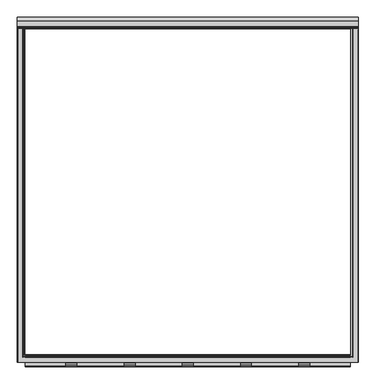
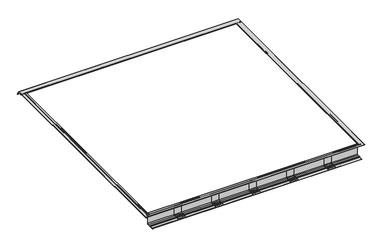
"""IFC4 building model written with IfcOpenShell, lengths in millimetres: fastener geometry."""

from ifc_helpers import new_model, si_unit, point, frame, frame_2d, origin, place, context, project, spatial, polyline, circle_curve, ellipse_curve, trimmed, segment, composite_curve, outline, extrude, source, transform, mapped, element, save
from ifc_brep_helpers import plane_surface, cylinder_surface, revolved_surface, advanced_brep


def fastener_52988820(model_context):
    return source(origin(), model_context, "Body", "SolidModel", [
        extrude(outline(composite_curve([segment(trimmed(circle_curve(frame_2d((-1145.5700599, -131.9625171)), 7.5509517), [point((-1138.0191082, -131.9625171))], [point((-1145.5700599, -139.5134688))], False, "CARTESIAN"), True, "CONTINUOUS"), segment(polyline([(-1145.5700599, -139.5134688), (-1177.5500422, -139.5134688)]), True, "CONTINUOUS"), segment(trimmed(circle_curve(frame_2d((-1177.2863618, -138.4574024)), 1.0884868), [point((-1177.5500422, -139.5134688))], [point((-1178.0560382, -137.6877259))], False, "CARTESIAN"), True, "CONTINUOUS"), segment(polyline([(-1178.0560382, -137.6877259), (-1176.7465916, -136.3782793)]), True, "CONTINUOUS"), segment(trimmed(circle_curve(frame_2d((-1177.516268, -135.6086029)), 1.0884868), [point((-1176.7465916, -136.3782793))], [point((-1176.911598, -134.7035184))], True, "CARTESIAN"), True, "CONTINUOUS"), segment(polyline([(-1176.911598, -134.7035184), (-1186.4250513, -134.7035184)]), True, "CONTINUOUS"), segment(trimmed(circle_curve(frame_2d((-1185.8203813, -135.6086029)), 1.0884868), [point((-1186.4250513, -134.7035184))], [point((-1186.5900578, -136.3782793))], True, "CARTESIAN"), True, "CONTINUOUS"), segment(polyline([(-1186.5900578, -136.3782793), (-1185.2806111, -137.6877259)]), True, "CONTINUOUS"), segment(trimmed(circle_curve(frame_2d((-1186.0502876, -138.4574024)), 1.0884868), [point((-1185.2806111, -137.6877259))], [point((-1185.7866071, -139.5134688))], False, "CARTESIAN"), True, "CONTINUOUS"), segment(polyline([(-1185.7866071, -139.5134688), (-1219.2, -139.5134688)]), True, "CONTINUOUS"), segment(trimmed(circle_curve(frame_2d((-1211.6858077, -138.781073)), 7.5498006), [point((-1219.2, -139.5134688))], [point((-1211.6858077, -131.2312724))], False, "CARTESIAN"), True, "CONTINUOUS"), segment(polyline([(-1211.6858077, -131.2312724), (-1195.9627839, -131.2312724)]), True, "CONTINUOUS"), segment(trimmed(circle_curve(frame_2d((-1195.8562589, -127.2549)), 3.977799), [point((-1195.9627839, -131.2312724))], [point((-1193.0435303, -130.0676287))], True, "CARTESIAN"), True, "CONTINUOUS"), segment(polyline([(-1193.0435303, -130.0676287), (-1190.9210407, -127.9451392)]), True, "CONTINUOUS"), segment(trimmed(circle_curve(frame_2d((-1188.1083121, -130.7578678)), 3.977799), [point((-1190.9210407, -127.9451392))], [point((-1188.0183247, -126.7810868))], False, "CARTESIAN"), True, "CONTINUOUS"), segment(polyline([(-1188.0183247, -126.7810868), (-1175.3183247, -126.7810868)]), True, "CONTINUOUS"), segment(trimmed(circle_curve(frame_2d((-1175.2283372, -130.7578678)), 3.977799), [point((-1175.3183247, -126.7810868))], [point((-1172.4156086, -127.9451392))], False, "CARTESIAN"), True, "CONTINUOUS"), segment(polyline([(-1172.4156086, -127.9451392), (-1170.2931191, -130.0676287)]), True, "CONTINUOUS"), segment(trimmed(circle_curve(frame_2d((-1167.4803904, -127.2549)), 3.977799), [point((-1170.2931191, -130.0676287))], [point((-1167.3738655, -131.2312724))], True, "CARTESIAN"), True, "CONTINUOUS"), segment(polyline([(-1167.3738655, -131.2312724), (-1150.9842926, -131.2312724)]), True, "CONTINUOUS"), segment(trimmed(circle_curve(frame_2d((-1150.2040874, -125.4486898)), 5.8349791), [point((-1150.9842926, -131.2312724))], [point((-1144.3691082, -125.4486898))], True, "CARTESIAN"), True, "CONTINUOUS"), segment(polyline([(-1144.3691082, -125.4486898), (-1144.3691082, -41.4750171), (-1138.0191082, -41.4750171), (-1138.0191082, -131.9625171)]), True, "CONTINUOUS")], self_intersect=False)), frame((774.7, 0.0, 0.0), z_axis=(1.0, 0.0, 0.0), x_axis=(0.0, 1.0, 0.0)), (0.0, 0.0, 1.0), 76.2),
        extrude(outline(composite_curve([segment(trimmed(circle_curve(frame_2d((-1145.5700599, -131.9625171)), 7.5509517), [point((-1138.0191082, -131.9625171))], [point((-1145.5700599, -139.5134688))], False, "CARTESIAN"), True, "CONTINUOUS"), segment(polyline([(-1145.5700599, -139.5134688), (-1177.5500422, -139.5134688)]), True, "CONTINUOUS"), segment(trimmed(circle_curve(frame_2d((-1177.2863618, -138.4574024)), 1.0884868), [point((-1177.5500422, -139.5134688))], [point((-1178.0560382, -137.6877259))], False, "CARTESIAN"), True, "CONTINUOUS"), segment(polyline([(-1178.0560382, -137.6877259), (-1176.7465916, -136.3782793)]), True, "CONTINUOUS"), segment(trimmed(circle_curve(frame_2d((-1177.516268, -135.6086029)), 1.0884868), [point((-1176.7465916, -136.3782793))], [point((-1176.911598, -134.7035184))], True, "CARTESIAN"), True, "CONTINUOUS"), segment(polyline([(-1176.911598, -134.7035184), (-1186.4250513, -134.7035184)]), True, "CONTINUOUS"), segment(trimmed(circle_curve(frame_2d((-1185.8203813, -135.6086029)), 1.0884868), [point((-1186.4250513, -134.7035184))], [point((-1186.5900578, -136.3782793))], True, "CARTESIAN"), True, "CONTINUOUS"), segment(polyline([(-1186.5900578, -136.3782793), (-1185.2806111, -137.6877259)]), True, "CONTINUOUS"), segment(trimmed(circle_curve(frame_2d((-1186.0502876, -138.4574024)), 1.0884868), [point((-1185.2806111, -137.6877259))], [point((-1185.7866071, -139.5134688))], False, "CARTESIAN"), True, "CONTINUOUS"), segment(polyline([(-1185.7866071, -139.5134688), (-1219.2, -139.5134688)]), True, "CONTINUOUS"), segment(trimmed(circle_curve(frame_2d((-1211.6858077, -138.781073)), 7.5498006), [point((-1219.2, -139.5134688))], [point((-1211.6858077, -131.2312724))], False, "CARTESIAN"), True, "CONTINUOUS"), segment(polyline([(-1211.6858077, -131.2312724), (-1195.9627839, -131.2312724)]), True, "CONTINUOUS"), segment(trimmed(circle_curve(frame_2d((-1195.8562589, -127.2549)), 3.977799), [point((-1195.9627839, -131.2312724))], [point((-1193.0435303, -130.0676287))], True, "CARTESIAN"), True, "CONTINUOUS"), segment(polyline([(-1193.0435303, -130.0676287), (-1190.9210407, -127.9451392)]), True, "CONTINUOUS"), segment(trimmed(circle_curve(frame_2d((-1188.1083121, -130.7578678)), 3.977799), [point((-1190.9210407, -127.9451392))], [point((-1188.0183247, -126.7810868))], False, "CARTESIAN"), True, "CONTINUOUS"), segment(polyline([(-1188.0183247, -126.7810868), (-1175.3183247, -126.7810868)]), True, "CONTINUOUS"), segment(trimmed(circle_curve(frame_2d((-1175.2283372, -130.7578678)), 3.977799), [point((-1175.3183247, -126.7810868))], [point((-1172.4156086, -127.9451392))], False, "CARTESIAN"), True, "CONTINUOUS"), segment(polyline([(-1172.4156086, -127.9451392), (-1170.2931191, -130.0676287)]), True, "CONTINUOUS"), segment(trimmed(circle_curve(frame_2d((-1167.4803904, -127.2549)), 3.977799), [point((-1170.2931191, -130.0676287))], [point((-1167.3738655, -131.2312724))], True, "CARTESIAN"), True, "CONTINUOUS"), segment(polyline([(-1167.3738655, -131.2312724), (-1150.9842926, -131.2312724)]), True, "CONTINUOUS"), segment(trimmed(circle_curve(frame_2d((-1150.2040874, -125.4486898)), 5.8349791), [point((-1150.9842926, -131.2312724))], [point((-1144.3691082, -125.4486898))], True, "CARTESIAN"), True, "CONTINUOUS"), segment(polyline([(-1144.3691082, -125.4486898), (-1144.3691082, -41.4750171), (-1138.0191082, -41.4750171), (-1138.0191082, -131.9625171)]), True, "CONTINUOUS")], self_intersect=False)), frame((-850.9, 0.0, 0.0), z_axis=(1.0, 0.0, 0.0), x_axis=(0.0, 1.0, 0.0)), (0.0, 0.0, 1.0), 76.2),
        extrude(outline(composite_curve([segment(trimmed(circle_curve(frame_2d((-1145.5700599, -131.9625171)), 7.5509517), [point((-1138.0191082, -131.9625171))], [point((-1145.5700599, -139.5134688))], False, "CARTESIAN"), True, "CONTINUOUS"), segment(polyline([(-1145.5700599, -139.5134688), (-1177.5500422, -139.5134688)]), True, "CONTINUOUS"), segment(trimmed(circle_curve(frame_2d((-1177.2863618, -138.4574024)), 1.0884868), [point((-1177.5500422, -139.5134688))], [point((-1178.0560382, -137.6877259))], False, "CARTESIAN"), True, "CONTINUOUS"), segment(polyline([(-1178.0560382, -137.6877259), (-1176.7465916, -136.3782793)]), True, "CONTINUOUS"), segment(trimmed(circle_curve(frame_2d((-1177.516268, -135.6086029)), 1.0884868), [point((-1176.7465916, -136.3782793))], [point((-1176.911598, -134.7035184))], True, "CARTESIAN"), True, "CONTINUOUS"), segment(polyline([(-1176.911598, -134.7035184), (-1186.4250513, -134.7035184)]), True, "CONTINUOUS"), segment(trimmed(circle_curve(frame_2d((-1185.8203813, -135.6086029)), 1.0884868), [point((-1186.4250513, -134.7035184))], [point((-1186.5900578, -136.3782793))], True, "CARTESIAN"), True, "CONTINUOUS"), segment(polyline([(-1186.5900578, -136.3782793), (-1185.2806111, -137.6877259)]), True, "CONTINUOUS"), segment(trimmed(circle_curve(frame_2d((-1186.0502876, -138.4574024)), 1.0884868), [point((-1185.2806111, -137.6877259))], [point((-1185.7866071, -139.5134688))], False, "CARTESIAN"), True, "CONTINUOUS"), segment(polyline([(-1185.7866071, -139.5134688), (-1219.2, -139.5134688)]), True, "CONTINUOUS"), segment(trimmed(circle_curve(frame_2d((-1211.6858077, -138.781073)), 7.5498006), [point((-1219.2, -139.5134688))], [point((-1211.6858077, -131.2312724))], False, "CARTESIAN"), True, "CONTINUOUS"), segment(polyline([(-1211.6858077, -131.2312724), (-1195.9627839, -131.2312724)]), True, "CONTINUOUS"), segment(trimmed(circle_curve(frame_2d((-1195.8562589, -127.2549)), 3.977799), [point((-1195.9627839, -131.2312724))], [point((-1193.0435303, -130.0676287))], True, "CARTESIAN"), True, "CONTINUOUS"), segment(polyline([(-1193.0435303, -130.0676287), (-1190.9210407, -127.9451392)]), True, "CONTINUOUS"), segment(trimmed(circle_curve(frame_2d((-1188.1083121, -130.7578678)), 3.977799), [point((-1190.9210407, -127.9451392))], [point((-1188.0183247, -126.7810868))], False, "CARTESIAN"), True, "CONTINUOUS"), segment(polyline([(-1188.0183247, -126.7810868), (-1175.3183247, -126.7810868)]), True, "CONTINUOUS"), segment(trimmed(circle_curve(frame_2d((-1175.2283372, -130.7578678)), 3.977799), [point((-1175.3183247, -126.7810868))], [point((-1172.4156086, -127.9451392))], False, "CARTESIAN"), True, "CONTINUOUS"), segment(polyline([(-1172.4156086, -127.9451392), (-1170.2931191, -130.0676287)]), True, "CONTINUOUS"), segment(trimmed(circle_curve(frame_2d((-1167.4803904, -127.2549)), 3.977799), [point((-1170.2931191, -130.0676287))], [point((-1167.3738655, -131.2312724))], True, "CARTESIAN"), True, "CONTINUOUS"), segment(polyline([(-1167.3738655, -131.2312724), (-1150.9842926, -131.2312724)]), True, "CONTINUOUS"), segment(trimmed(circle_curve(frame_2d((-1150.2040874, -125.4486898)), 5.8349791), [point((-1150.9842926, -131.2312724))], [point((-1144.3691082, -125.4486898))], True, "CARTESIAN"), True, "CONTINUOUS"), segment(polyline([(-1144.3691082, -125.4486898), (-1144.3691082, -41.4750171), (-1138.0191082, -41.4750171), (-1138.0191082, -131.9625171)]), True, "CONTINUOUS")], self_intersect=False)), frame((-444.5, 0.0, 0.0), z_axis=(1.0, 0.0, 0.0), x_axis=(0.0, 1.0, 0.0)), (0.0, 0.0, 1.0), 76.2),
        extrude(outline(composite_curve([segment(trimmed(circle_curve(frame_2d((-1145.5700599, -131.9625171)), 7.5509517), [point((-1138.0191082, -131.9625171))], [point((-1145.5700599, -139.5134688))], False, "CARTESIAN"), True, "CONTINUOUS"), segment(polyline([(-1145.5700599, -139.5134688), (-1177.5500422, -139.5134688)]), True, "CONTINUOUS"), segment(trimmed(circle_curve(frame_2d((-1177.2863618, -138.4574024)), 1.0884868), [point((-1177.5500422, -139.5134688))], [point((-1178.0560382, -137.6877259))], False, "CARTESIAN"), True, "CONTINUOUS"), segment(polyline([(-1178.0560382, -137.6877259), (-1176.7465916, -136.3782793)]), True, "CONTINUOUS"), segment(trimmed(circle_curve(frame_2d((-1177.516268, -135.6086029)), 1.0884868), [point((-1176.7465916, -136.3782793))], [point((-1176.911598, -134.7035184))], True, "CARTESIAN"), True, "CONTINUOUS"), segment(polyline([(-1176.911598, -134.7035184), (-1186.4250513, -134.7035184)]), True, "CONTINUOUS"), segment(trimmed(circle_curve(frame_2d((-1185.8203813, -135.6086029)), 1.0884868), [point((-1186.4250513, -134.7035184))], [point((-1186.5900578, -136.3782793))], True, "CARTESIAN"), True, "CONTINUOUS"), segment(polyline([(-1186.5900578, -136.3782793), (-1185.2806111, -137.6877259)]), True, "CONTINUOUS"), segment(trimmed(circle_curve(frame_2d((-1186.0502876, -138.4574024)), 1.0884868), [point((-1185.2806111, -137.6877259))], [point((-1185.7866071, -139.5134688))], False, "CARTESIAN"), True, "CONTINUOUS"), segment(polyline([(-1185.7866071, -139.5134688), (-1219.2, -139.5134688)]), True, "CONTINUOUS"), segment(trimmed(circle_curve(frame_2d((-1211.6858077, -138.781073)), 7.5498006), [point((-1219.2, -139.5134688))], [point((-1211.6858077, -131.2312724))], False, "CARTESIAN"), True, "CONTINUOUS"), segment(polyline([(-1211.6858077, -131.2312724), (-1195.9627839, -131.2312724)]), True, "CONTINUOUS"), segment(trimmed(circle_curve(frame_2d((-1195.8562589, -127.2549)), 3.977799), [point((-1195.9627839, -131.2312724))], [point((-1193.0435303, -130.0676287))], True, "CARTESIAN"), True, "CONTINUOUS"), segment(polyline([(-1193.0435303, -130.0676287), (-1190.9210407, -127.9451392)]), True, "CONTINUOUS"), segment(trimmed(circle_curve(frame_2d((-1188.1083121, -130.7578678)), 3.977799), [point((-1190.9210407, -127.9451392))], [point((-1188.0183247, -126.7810868))], False, "CARTESIAN"), True, "CONTINUOUS"), segment(polyline([(-1188.0183247, -126.7810868), (-1175.3183247, -126.7810868)]), True, "CONTINUOUS"), segment(trimmed(circle_curve(frame_2d((-1175.2283372, -130.7578678)), 3.977799), [point((-1175.3183247, -126.7810868))], [point((-1172.4156086, -127.9451392))], False, "CARTESIAN"), True, "CONTINUOUS"), segment(polyline([(-1172.4156086, -127.9451392), (-1170.2931191, -130.0676287)]), True, "CONTINUOUS"), segment(trimmed(circle_curve(frame_2d((-1167.4803904, -127.2549)), 3.977799), [point((-1170.2931191, -130.0676287))], [point((-1167.3738655, -131.2312724))], True, "CARTESIAN"), True, "CONTINUOUS"), segment(polyline([(-1167.3738655, -131.2312724), (-1150.9842926, -131.2312724)]), True, "CONTINUOUS"), segment(trimmed(circle_curve(frame_2d((-1150.2040874, -125.4486898)), 5.8349791), [point((-1150.9842926, -131.2312724))], [point((-1144.3691082, -125.4486898))], True, "CARTESIAN"), True, "CONTINUOUS"), segment(polyline([(-1144.3691082, -125.4486898), (-1144.3691082, -41.4750171), (-1138.0191082, -41.4750171), (-1138.0191082, -131.9625171)]), True, "CONTINUOUS")], self_intersect=False)), frame((368.3, 0.0, 0.0), z_axis=(1.0, 0.0, 0.0), x_axis=(0.0, 1.0, 0.0)), (0.0, 0.0, 1.0), 76.2),
        extrude(outline(composite_curve([segment(trimmed(circle_curve(frame_2d((-1145.5700599, -131.9625171)), 7.5509517), [point((-1138.0191082, -131.9625171))], [point((-1145.5700599, -139.5134688))], False, "CARTESIAN"), True, "CONTINUOUS"), segment(polyline([(-1145.5700599, -139.5134688), (-1177.5500422, -139.5134688)]), True, "CONTINUOUS"), segment(trimmed(circle_curve(frame_2d((-1177.2863618, -138.4574024)), 1.0884868), [point((-1177.5500422, -139.5134688))], [point((-1178.0560382, -137.6877259))], False, "CARTESIAN"), True, "CONTINUOUS"), segment(polyline([(-1178.0560382, -137.6877259), (-1176.7465916, -136.3782793)]), True, "CONTINUOUS"), segment(trimmed(circle_curve(frame_2d((-1177.516268, -135.6086029)), 1.0884868), [point((-1176.7465916, -136.3782793))], [point((-1176.911598, -134.7035184))], True, "CARTESIAN"), True, "CONTINUOUS"), segment(polyline([(-1176.911598, -134.7035184), (-1186.4250513, -134.7035184)]), True, "CONTINUOUS"), segment(trimmed(circle_curve(frame_2d((-1185.8203813, -135.6086029)), 1.0884868), [point((-1186.4250513, -134.7035184))], [point((-1186.5900578, -136.3782793))], True, "CARTESIAN"), True, "CONTINUOUS"), segment(polyline([(-1186.5900578, -136.3782793), (-1185.2806111, -137.6877259)]), True, "CONTINUOUS"), segment(trimmed(circle_curve(frame_2d((-1186.0502876, -138.4574024)), 1.0884868), [point((-1185.2806111, -137.6877259))], [point((-1185.7866071, -139.5134688))], False, "CARTESIAN"), True, "CONTINUOUS"), segment(polyline([(-1185.7866071, -139.5134688), (-1219.2, -139.5134688)]), True, "CONTINUOUS"), segment(trimmed(circle_curve(frame_2d((-1211.6858077, -138.781073)), 7.5498006), [point((-1219.2, -139.5134688))], [point((-1211.6858077, -131.2312724))], False, "CARTESIAN"), True, "CONTINUOUS"), segment(polyline([(-1211.6858077, -131.2312724), (-1195.9627839, -131.2312724)]), True, "CONTINUOUS"), segment(trimmed(circle_curve(frame_2d((-1195.8562589, -127.2549)), 3.977799), [point((-1195.9627839, -131.2312724))], [point((-1193.0435303, -130.0676287))], True, "CARTESIAN"), True, "CONTINUOUS"), segment(polyline([(-1193.0435303, -130.0676287), (-1190.9210407, -127.9451392)]), True, "CONTINUOUS"), segment(trimmed(circle_curve(frame_2d((-1188.1083121, -130.7578678)), 3.977799), [point((-1190.9210407, -127.9451392))], [point((-1188.0183247, -126.7810868))], False, "CARTESIAN"), True, "CONTINUOUS"), segment(polyline([(-1188.0183247, -126.7810868), (-1175.3183247, -126.7810868)]), True, "CONTINUOUS"), segment(trimmed(circle_curve(frame_2d((-1175.2283372, -130.7578678)), 3.977799), [point((-1175.3183247, -126.7810868))], [point((-1172.4156086, -127.9451392))], False, "CARTESIAN"), True, "CONTINUOUS"), segment(polyline([(-1172.4156086, -127.9451392), (-1170.2931191, -130.0676287)]), True, "CONTINUOUS"), segment(trimmed(circle_curve(frame_2d((-1167.4803904, -127.2549)), 3.977799), [point((-1170.2931191, -130.0676287))], [point((-1167.3738655, -131.2312724))], True, "CARTESIAN"), True, "CONTINUOUS"), segment(polyline([(-1167.3738655, -131.2312724), (-1150.9842926, -131.2312724)]), True, "CONTINUOUS"), segment(trimmed(circle_curve(frame_2d((-1150.2040874, -125.4486898)), 5.8349791), [point((-1150.9842926, -131.2312724))], [point((-1144.3691082, -125.4486898))], True, "CARTESIAN"), True, "CONTINUOUS"), segment(polyline([(-1144.3691082, -125.4486898), (-1144.3691082, -41.4750171), (-1138.0191082, -41.4750171), (-1138.0191082, -131.9625171)]), True, "CONTINUOUS")], self_intersect=False)), frame((-38.1, 0.0, 0.0), z_axis=(1.0, 0.0, 0.0), x_axis=(0.0, 1.0, 0.0)), (0.0, 0.0, 1.0), 76.2),
        extrude(outline(composite_curve([segment(polyline([(-1135.3165, -15.1804688), (-1135.3165, -142.1804688), (-1217.8665, -142.1804688)]), True, "CONTINUOUS"), segment(trimmed(circle_curve(frame_2d((-1217.8665, -140.8469688)), 1.3335), [point((-1217.8665, -142.1804688))], [point((-1217.8665, -139.5134688))], False, "CARTESIAN"), True, "CONTINUOUS"), segment(polyline([(-1217.8665, -139.5134688), (-1185.7509989, -139.5134688)]), True, "CONTINUOUS"), segment(trimmed(circle_curve(frame_2d((-1186.0146793, -138.4574024)), 1.0884868), [point((-1185.7509989, -139.5134688))], [point((-1185.2450029, -137.6877259))], True, "CARTESIAN"), True, "CONTINUOUS"), segment(polyline([(-1185.2450029, -137.6877259), (-1186.5544495, -136.3782793)]), True, "CONTINUOUS"), segment(trimmed(circle_curve(frame_2d((-1185.7847731, -135.6086029)), 1.0884868), [point((-1186.5544495, -136.3782793))], [point((-1186.389443, -134.7035184))], False, "CARTESIAN"), True, "CONTINUOUS"), segment(polyline([(-1186.389443, -134.7035184), (-1176.8759898, -134.7035184)]), True, "CONTINUOUS"), segment(trimmed(circle_curve(frame_2d((-1177.4806597, -135.6086029)), 1.0884868), [point((-1176.8759898, -134.7035184))], [point((-1176.7109833, -136.3782793))], False, "CARTESIAN"), True, "CONTINUOUS"), segment(polyline([(-1176.7109833, -136.3782793), (-1178.0204299, -137.6877259)]), True, "CONTINUOUS"), segment(trimmed(circle_curve(frame_2d((-1177.2507535, -138.4574024)), 1.0884868), [point((-1178.0204299, -137.6877259))], [point((-1177.5144339, -139.5134688))], True, "CARTESIAN"), True, "CONTINUOUS"), segment(polyline([(-1177.5144339, -139.5134688), (-1145.5344517, -139.5134688)]), True, "CONTINUOUS"), segment(trimmed(circle_curve(frame_2d((-1145.5344517, -131.9625171)), 7.5509517), [point((-1145.5344517, -139.5134688))], [point((-1137.9835, -131.9625171))], True, "CARTESIAN"), True, "CONTINUOUS"), segment(polyline([(-1137.9835, -131.9625171), (-1137.9835, -21.87801), (-1156.2117258, -21.87801), (-1156.2117258, -15.1804688), (-1152.1178999, -15.1804688)]), True, "CONTINUOUS"), segment(trimmed(circle_curve(frame_2d((-1152.8274757, -16.2725079)), 1.3023238), [point((-1152.1178999, -15.1804688))], [point((-1151.9131963, -17.1999455))], False, "CARTESIAN"), True, "CONTINUOUS"), segment(polyline([(-1151.9131963, -17.1999455), (-1152.9649499, -18.2679836)]), True, "CONTINUOUS"), segment(trimmed(circle_curve(frame_2d((-1152.5091166, -18.6293281)), 0.5816819), [point((-1152.9649499, -18.2679836))], [point((-1152.5091166, -19.21101))], True, "CARTESIAN"), True, "CONTINUOUS"), segment(polyline([(-1152.5091166, -19.21101), (-1140.8594568, -19.21101)]), True, "CONTINUOUS"), segment(trimmed(circle_curve(frame_2d((-1140.8594568, -18.6130003)), 0.5980097), [point((-1140.8594568, -19.21101))], [point((-1140.3710112, -18.2679836))], True, "CARTESIAN"), True, "CONTINUOUS"), segment(polyline([(-1140.3710112, -18.2679836), (-1141.460117, -17.1999455)]), True, "CONTINUOUS"), segment(trimmed(circle_curve(frame_2d((-1140.5022273, -16.284676)), 1.3248664), [point((-1141.460117, -17.1999455))], [point((-1141.2343456, -15.1804688))], False, "CARTESIAN"), True, "CONTINUOUS"), segment(polyline([(-1141.2343456, -15.1804688), (-1135.3165, -15.1804688)]), True, "CONTINUOUS")], self_intersect=False)), frame((-1135.3165, 0.0, 0.0), z_axis=(1.0, 0.0, 0.0), x_axis=(0.0, 1.0, 0.0)), (0.0, 0.0, 1.0), 2270.633),
        advanced_brep(
        [(-1189.1053092, 1141.2343456, -15.1685625), (-1189.1053092, 1135.3165, -15.1685625), (-1189.1053092, 1135.3165, -13.8350625), (-1189.1053092, 1135.3165, -12.5015625), (-1189.1053092, 1190.6451024, -12.5015625), (-1189.1053092, 1217.7515464, -59.4513008), (-1189.1053092, 1215.4418567, -60.7848008), (-1189.1053092, 1189.1053092, -15.1685625), (-1189.1053092, 1161.8308783, -15.1685625), (-1189.1053092, 1159.573508, -17.4259327), (-1189.1053092, 1159.573508, -26.7633474), (-1189.1053092, 1149.6719492, -26.7633474), (-1189.1053092, 1149.6719492, -24.7662067), (-1189.1053092, 1150.5032605, -24.7662067), (-1189.1053092, 1151.5117177, -23.7577495), (-1189.1053092, 1151.5117177, -21.8661038), (-1189.1053092, 1156.2117258, -21.8661038), (-1189.1053092, 1156.2117258, -15.1685625), (-1189.1053092, 1152.1178999, -15.1685625), (-1189.1053092, 1151.9131963, -17.2095918), (-1189.1053092, 1152.9812344, -18.2776299), (-1189.1053092, 1152.5091166, -19.1991038), (-1189.1053092, 1140.8431289, -19.1991038), (-1189.1053092, 1140.3710112, -18.2776299), (-1189.1053092, 1141.4390493, -17.2095918), (1189.1053092, 1141.2343456, -15.1685625), (1189.1053092, 1141.4390493, -17.2095918), (1189.1053092, 1140.3710112, -18.2776299), (1189.1053092, 1140.8431289, -19.1991038), (1189.1053092, 1152.5091166, -19.1991038), (1189.1053092, 1152.9812344, -18.2776299), (1189.1053092, 1151.9131963, -17.2095918), (1189.1053092, 1152.1178999, -15.1685625), (1189.1053092, 1156.2117258, -15.1685625), (1189.1053092, 1156.2117258, -21.8661038), (1189.1053092, 1151.5117177, -21.8661038), (1189.1053092, 1151.5117177, -23.7577495), (1189.1053092, 1150.5032605, -24.7662067), (1189.1053092, 1149.6719492, -24.7662067), (1189.1053092, 1149.6719492, -26.7633474), (1189.1053092, 1159.573508, -26.7633474), (1189.1053092, 1159.573508, -17.4259327), (1189.1053092, 1161.8308783, -15.1685625), (1189.1053092, 1189.1053092, -15.1685625), (1189.1053092, 1215.4418567, -60.7848008), (1189.1053092, 1217.7515464, -59.4513008), (1189.1053092, 1190.6451024, -12.5015625), (1189.1053092, 1135.3165, -12.5015625), (1189.1053092, 1135.3165, -13.8350625), (1189.1053092, 1135.3165, -15.1685625), (1187.7718092, 1135.3165, -15.1685625), (1187.7718092, -1187.7718092, -15.1685625), (-1187.7718092, -1187.7718092, -15.1685625), (-1187.7718092, 1135.3165, -15.1685625), (1135.3165, 1135.3165, -15.1685625), (-1135.3165, 1135.3165, -15.1685625), (-1135.3165, -1135.3165, -15.1685625), (1135.3165, -1135.3165, -15.1685625), (-1141.2160631, 1135.3165, -15.1685625), (-1152.1361825, 1135.3165, -15.1685625), (-1152.1361825, -1152.1361825, -15.1685625), (1152.1361825, -1152.1361825, -15.1685625), (1152.1361825, 1135.3165, -15.1685625), (1141.2160631, 1135.3165, -15.1685625), (1141.2160631, -1141.2160631, -15.1685625), (-1141.2160631, -1141.2160631, -15.1685625), (-1156.2117258, 1135.3165, -15.1685625), (-1161.8308783, 1135.3165, -15.1685625), (-1161.8308783, -1161.8308783, -15.1685625), (1161.8308783, -1161.8308783, -15.1685625), (1161.8308783, 1135.3165, -15.1685625), (1156.2117258, 1135.3165, -15.1685625), (1156.2117258, -1156.2117258, -15.1685625), (-1156.2117258, -1156.2117258, -15.1685625), (-1187.7718092, 1135.3165, -12.5015625), (1187.7718092, 1135.3165, -12.5015625), (1135.3165, 1135.3165, -12.5015625), (-1135.3165, 1135.3165, -12.5015625), (-1187.7718092, -1187.7718092, -12.5015625), (1187.7718092, -1187.7718092, -12.5015625), (1135.3165, -1135.3165, -12.5015625), (-1135.3165, -1135.3165, -12.5015625), (-1141.4390493, 1135.3165, -17.221498), (-1140.3710112, 1135.3165, -18.2895361), (-1140.8431289, 1135.3165, -19.21101), (-1152.5091166, 1135.3165, -19.21101), (-1152.9812344, 1135.3165, -18.2895361), (-1151.9131963, 1135.3165, -17.221498), (-1156.2117258, 1135.3165, -21.87801), (-1151.5117177, 1135.3165, -21.87801), (-1151.5117177, 1135.3165, -23.7696558), (-1150.5032605, 1135.3165, -24.7781129), (-1149.6719492, 1135.3165, -24.7781129), (-1149.6719492, 1135.3165, -26.7633474), (-1159.573508, 1135.3165, -26.7633474), (-1159.573508, 1135.3165, -17.4259327), (-1141.4390493, -1141.4390493, -17.221498), (-1140.3710112, -1140.3710112, -18.2895361), (-1140.8431289, -1140.8431289, -19.21101), (1140.8431289, -1140.8431289, -19.21101), (1140.8431289, 1135.3165, -19.21101), (1152.5091166, 1135.3165, -19.21101), (1152.5091166, -1152.5091166, -19.21101), (-1152.5091166, -1152.5091166, -19.21101), (-1152.9812344, -1152.9812344, -18.2895361), (-1151.9131963, -1151.9131963, -17.221498), (-1156.2117258, -1156.2117258, -21.87801), (1156.2117258, -1156.2117258, -21.87801), (1156.2117258, 1135.3165, -21.87801), (1151.5117177, 1135.3165, -21.87801), (1151.5117177, -1151.5117177, -21.87801), (-1151.5117177, -1151.5117177, -21.87801), (-1151.5117177, -1151.5117177, -23.7696558), (-1150.5032605, -1150.5032605, -24.7781129), (1150.5032605, -1150.5032605, -24.7781129), (1150.5032605, 1135.3165, -24.7781129), (1149.6719492, 1135.3165, -24.7781129), (1149.6719492, -1149.6719492, -24.7781129), (-1149.6719492, -1149.6719492, -24.7781129), (-1149.6719492, -1149.6719492, -26.7633474), (1149.6719492, -1149.6719492, -26.7633474), (1149.6719492, 1135.3165, -26.7633474), (1159.573508, 1135.3165, -26.7633474), (1159.573508, -1159.573508, -26.7633474), (-1159.573508, -1159.573508, -26.7633474), (-1159.573508, -1159.573508, -17.4259327), (1141.4390493, -1141.4390493, -17.221498), (1140.3710112, -1140.3710112, -18.2895361), (1152.9812344, -1152.9812344, -18.2895361), (1151.9131963, -1151.9131963, -17.221498), (1151.5117177, -1151.5117177, -23.7696558), (1159.573508, -1159.573508, -17.4259327), (1140.3710112, 1135.3165, -18.2895361), (1141.4390493, 1135.3165, -17.221498), (1151.9131963, 1135.3165, -17.221498), (1152.9812344, 1135.3165, -18.2895361), (1159.573508, 1135.3165, -17.4259327), (1151.5117177, 1135.3165, -23.7696558)],
        [
            (0, 1),
            (1, 2),
            (2, 3),
            (3, 4),
            (4, 5),
            (5, 6),
            (6, 7),
            (7, 8),
            (8, 9, circle_curve(frame((-1189.1053092, 1161.8308783, -17.4259327), z_axis=(1.0, 0.0, 0.0), x_axis=(0.0, 1.0, 0.0)), 2.2573702)),
            (9, 10),
            (10, 11),
            (11, 12, circle_curve(frame((-1189.1053092, 1149.6719492, -25.764777), z_axis=(-1.0, 0.0, 0.0), x_axis=(0.0, 1.0, 0.0)), 0.9985703)),
            (12, 13),
            (13, 14, circle_curve(frame((-1189.1053092, 1150.5032605, -23.7577495), z_axis=(1.0, 0.0, 0.0), x_axis=(0.0, 1.0, 0.0)), 1.0084572)),
            (14, 15),
            (15, 16),
            (16, 17),
            (17, 18),
            (18, 19, circle_curve(frame((-1189.1053092, 1152.8500183, -16.2727698), z_axis=(1.0, 0.0, 0.0), x_axis=(0.0, 1.0, 0.0)), 1.3248664)),
            (19, 20),
            (20, 21, circle_curve(frame((-1189.1053092, 1152.5091166, -18.6174219), z_axis=(-1.0, 0.0, 0.0), x_axis=(0.0, 1.0, 0.0)), 0.5816819)),
            (21, 22),
            (22, 23, circle_curve(frame((-1189.1053092, 1140.8431289, -18.6174219), z_axis=(-1.0, 0.0, 0.0), x_axis=(0.0, 1.0, 0.0)), 0.5816819)),
            (23, 24),
            (24, 0, circle_curve(frame((-1189.1053092, 1140.5022273, -16.2727698), z_axis=(1.0, 0.0, 0.0), x_axis=(0.0, 1.0, 0.0)), 1.3248664)),
            (25, 26, circle_curve(frame((1189.1053092, 1140.5022273, -16.2727698), z_axis=(-1.0, 0.0, 0.0), x_axis=(0.0, 1.0, 0.0)), 1.3248664)),
            (26, 27),
            (27, 28, circle_curve(frame((1189.1053092, 1140.8431289, -18.6174219), z_axis=(1.0, 0.0, 0.0), x_axis=(0.0, 1.0, 0.0)), 0.5816819)),
            (28, 29),
            (29, 30, circle_curve(frame((1189.1053092, 1152.5091166, -18.6174219), z_axis=(1.0, 0.0, 0.0), x_axis=(0.0, 1.0, 0.0)), 0.5816819)),
            (30, 31),
            (31, 32, circle_curve(frame((1189.1053092, 1152.8500183, -16.2727698), z_axis=(-1.0, 0.0, 0.0), x_axis=(0.0, 1.0, 0.0)), 1.3248664)),
            (32, 33),
            (33, 34),
            (34, 35),
            (35, 36),
            (36, 37, circle_curve(frame((1189.1053092, 1150.5032605, -23.7577495), z_axis=(-1.0, 0.0, 0.0), x_axis=(0.0, 1.0, 0.0)), 1.0084572)),
            (37, 38),
            (38, 39, circle_curve(frame((1189.1053092, 1149.6719492, -25.764777), z_axis=(1.0, 0.0, 0.0), x_axis=(0.0, 1.0, 0.0)), 0.9985703)),
            (39, 40),
            (40, 41),
            (41, 42, circle_curve(frame((1189.1053092, 1161.8308783, -17.4259327), z_axis=(-1.0, 0.0, 0.0), x_axis=(0.0, 1.0, 0.0)), 2.2573702)),
            (42, 43),
            (43, 44),
            (44, 45),
            (45, 46),
            (46, 47),
            (47, 48),
            (48, 49),
            (49, 25),
            (0, 25),
            (49, 50),
            (50, 51),
            (51, 52),
            (52, 53),
            (53, 1),
            (54, 55),
            (55, 56),
            (56, 57),
            (57, 54),
            (58, 59),
            (59, 60),
            (60, 61),
            (61, 62),
            (62, 63),
            (63, 64),
            (64, 65),
            (65, 58),
            (66, 67),
            (67, 68),
            (68, 69),
            (69, 70),
            (70, 71),
            (71, 72),
            (72, 73),
            (73, 66),
            (53, 2, circle_curve(frame((-1187.7718092, 1135.3165, -13.8350625), z_axis=(0.0, 1.0, 0.0), x_axis=(1.0, 0.0, 0.0)), 1.3335)),
            (2, 74, circle_curve(frame((-1187.7718092, 1135.3165, -13.8350625), z_axis=(0.0, 1.0, 0.0), x_axis=(1.0, 0.0, 0.0)), 1.3335)),
            (74, 3),
            (47, 75),
            (75, 48, circle_curve(frame((1187.7718092, 1135.3165, -13.8350625), z_axis=(0.0, 1.0, 0.0), x_axis=(-1.0, 0.0, 0.0)), 1.3335)),
            (48, 50, circle_curve(frame((1187.7718092, 1135.3165, -13.8350625), z_axis=(0.0, 1.0, 0.0), x_axis=(-1.0, 0.0, 0.0)), 1.3335)),
            (54, 76),
            (76, 77),
            (77, 55),
            (74, 78),
            (78, 79),
            (79, 75),
            (46, 4),
            (76, 80),
            (80, 81),
            (81, 77),
            (45, 5),
            (44, 6),
            (43, 7),
            (42, 8),
            (41, 9),
            (40, 10),
            (39, 11),
            (38, 12),
            (37, 13),
            (36, 14),
            (35, 15),
            (34, 16),
            (33, 17),
            (32, 18),
            (19, 31),
            (30, 20),
            (29, 21),
            (28, 22),
            (27, 23),
            (26, 24),
            (58, 82, circle_curve(frame((-1140.5022273, 1135.3165, -16.284676), z_axis=(0.0, -1.0, 0.0), x_axis=(1.0, 0.0, 0.0)), 1.3248664)),
            (82, 83),
            (83, 84, circle_curve(frame((-1140.8431289, 1135.3165, -18.6293281), z_axis=(0.0, 1.0, 0.0), x_axis=(1.0, 0.0, 0.0)), 0.5816819)),
            (84, 85),
            (85, 86, circle_curve(frame((-1152.5091166, 1135.3165, -18.6293281), z_axis=(0.0, 1.0, 0.0), x_axis=(1.0, 0.0, 0.0)), 0.5816819)),
            (86, 87),
            (87, 59, circle_curve(frame((-1152.8500183, 1135.3165, -16.284676), z_axis=(0.0, -1.0, 0.0), x_axis=(1.0, 0.0, 0.0)), 1.3248664)),
            (66, 88),
            (88, 89),
            (89, 90),
            (90, 91, circle_curve(frame((-1150.5032605, 1135.3165, -23.7696558), z_axis=(0.0, -1.0, 0.0), x_axis=(1.0, 0.0, 0.0)), 1.0084572)),
            (91, 92),
            (92, 93, circle_curve(frame((-1149.6719492, 1135.3165, -25.7707301), z_axis=(0.0, 1.0, 0.0), x_axis=(1.0, 0.0, 0.0)), 0.9926172)),
            (93, 94),
            (94, 95),
            (95, 67, circle_curve(frame((-1161.8308783, 1135.3165, -17.4259327), z_axis=(0.0, -1.0, 0.0), x_axis=(1.0, 0.0, 0.0)), 2.2573702)),
            (65, 96, ellipse_curve(frame((-1140.5022273, -1140.5022273, -16.284676), z_axis=(0.7071067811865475, -0.7071067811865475, 0.0), x_axis=(-0.7071067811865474, -0.7071067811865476, 0.0)), 1.873644, 1.3248664)),
            (96, 82),
            (96, 97),
            (97, 83),
            (97, 98, ellipse_curve(frame((-1140.8431289, -1140.8431289, -18.6293281), z_axis=(-0.7071067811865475, 0.7071067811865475, 0.0), x_axis=(0.7071067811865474, 0.7071067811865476, 0.0)), 0.8226224, 0.5816819)),
            (98, 84),
            (98, 99),
            (99, 100),
            (100, 101),
            (101, 102),
            (102, 103),
            (103, 85),
            (103, 104, ellipse_curve(frame((-1152.5091166, -1152.5091166, -18.6293281), z_axis=(-0.7071067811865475, 0.7071067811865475, 0.0), x_axis=(0.7071067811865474, 0.7071067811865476, 0.0)), 0.8226224, 0.5816819)),
            (104, 86),
            (104, 105),
            (105, 87),
            (105, 60, ellipse_curve(frame((-1152.8500183, -1152.8500183, -16.284676), z_axis=(0.7071067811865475, -0.7071067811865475, 0.0), x_axis=(-0.7071067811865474, -0.7071067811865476, 0.0)), 1.873644, 1.3248664)),
            (73, 106),
            (106, 88),
            (106, 107),
            (107, 108),
            (108, 109),
            (109, 110),
            (110, 111),
            (111, 89),
            (111, 112),
            (112, 90),
            (112, 113, ellipse_curve(frame((-1150.5032605, -1150.5032605, -23.7696558), z_axis=(0.7071067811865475, -0.7071067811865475, 0.0), x_axis=(-0.7071067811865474, -0.7071067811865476, 0.0)), 1.4261738, 1.0084572)),
            (113, 91),
            (113, 114),
            (114, 115),
            (115, 116),
            (116, 117),
            (117, 118),
            (118, 92),
            (118, 119, ellipse_curve(frame((-1149.6719492, -1149.6719492, -25.7707301), z_axis=(-0.7071067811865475, 0.7071067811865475, 0.0), x_axis=(0.7071067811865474, 0.7071067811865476, 0.0)), 1.4037727, 0.9926172)),
            (119, 93),
            (119, 120),
            (120, 121),
            (121, 122),
            (122, 123),
            (123, 124),
            (124, 94),
            (124, 125),
            (125, 95),
            (125, 68, ellipse_curve(frame((-1161.8308783, -1161.8308783, -17.4259327), z_axis=(0.7071067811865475, -0.7071067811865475, 0.0), x_axis=(-0.7071067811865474, -0.7071067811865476, 0.0)), 3.1924036, 2.2573702)),
            (52, 78, ellipse_curve(frame((-1187.7718092, -1187.7718092, -13.8350625), z_axis=(-0.7071067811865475, 0.7071067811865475, 0.0), x_axis=(0.7071067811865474, 0.7071067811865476, 0.0)), 1.8858538, 1.3335)),
            (81, 56),
            (64, 126, ellipse_curve(frame((1140.5022273, -1140.5022273, -16.284676), z_axis=(0.7071067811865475, 0.7071067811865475, 0.0), x_axis=(0.7071067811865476, -0.7071067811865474, 0.0)), 1.873644, 1.3248664)),
            (126, 96),
            (126, 127),
            (127, 97),
            (127, 99, ellipse_curve(frame((1140.8431289, -1140.8431289, -18.6293281), z_axis=(-0.7071067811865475, -0.7071067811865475, 0.0), x_axis=(-0.7071067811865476, 0.7071067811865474, 0.0)), 0.8226224, 0.5816819)),
            (102, 128, ellipse_curve(frame((1152.5091166, -1152.5091166, -18.6293281), z_axis=(-0.7071067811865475, -0.7071067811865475, 0.0), x_axis=(-0.7071067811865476, 0.7071067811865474, 0.0)), 0.8226224, 0.5816819)),
            (128, 104),
            (128, 129),
            (129, 105),
            (129, 61, ellipse_curve(frame((1152.8500183, -1152.8500183, -16.284676), z_axis=(0.7071067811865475, 0.7071067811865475, 0.0), x_axis=(0.7071067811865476, -0.7071067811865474, 0.0)), 1.873644, 1.3248664)),
            (72, 107),
            (110, 130),
            (130, 112),
            (130, 114, ellipse_curve(frame((1150.5032605, -1150.5032605, -23.7696558), z_axis=(0.7071067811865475, 0.7071067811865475, 0.0), x_axis=(0.7071067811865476, -0.7071067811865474, 0.0)), 1.4261738, 1.0084572)),
            (117, 120, ellipse_curve(frame((1149.6719492, -1149.6719492, -25.7707301), z_axis=(-0.7071067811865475, -0.7071067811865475, 0.0), x_axis=(-0.7071067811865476, 0.7071067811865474, 0.0)), 1.4037727, 0.9926172)),
            (123, 131),
            (131, 125),
            (131, 69, ellipse_curve(frame((1161.8308783, -1161.8308783, -17.4259327), z_axis=(0.7071067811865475, 0.7071067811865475, 0.0), x_axis=(0.7071067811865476, -0.7071067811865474, 0.0)), 3.1924036, 2.2573702)),
            (51, 79, ellipse_curve(frame((1187.7718092, -1187.7718092, -13.8350625), z_axis=(-0.7071067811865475, -0.7071067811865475, 0.0), x_axis=(-0.7071067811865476, 0.7071067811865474, 0.0)), 1.8858538, 1.3335)),
            (80, 57),
            (100, 132, circle_curve(frame((1140.8431289, 1135.3165, -18.6293281), z_axis=(0.0, 1.0, 0.0), x_axis=(-1.0, 0.0, 0.0)), 0.5816819)),
            (132, 133),
            (133, 63, circle_curve(frame((1140.5022273, 1135.3165, -16.284676), z_axis=(0.0, -1.0, 0.0), x_axis=(-1.0, 0.0, 0.0)), 1.3248664)),
            (62, 134, circle_curve(frame((1152.8500183, 1135.3165, -16.284676), z_axis=(0.0, -1.0, 0.0), x_axis=(-1.0, 0.0, 0.0)), 1.3248664)),
            (134, 135),
            (135, 101, circle_curve(frame((1152.5091166, 1135.3165, -18.6293281), z_axis=(0.0, 1.0, 0.0), x_axis=(-1.0, 0.0, 0.0)), 0.5816819)),
            (108, 71),
            (70, 136, circle_curve(frame((1161.8308783, 1135.3165, -17.4259327), z_axis=(0.0, -1.0, 0.0), x_axis=(-1.0, 0.0, 0.0)), 2.2573702)),
            (136, 122),
            (121, 116, circle_curve(frame((1149.6719492, 1135.3165, -25.7707301), z_axis=(0.0, 1.0, 0.0), x_axis=(-1.0, 0.0, 0.0)), 0.9926172)),
            (115, 137, circle_curve(frame((1150.5032605, 1135.3165, -23.7696558), z_axis=(0.0, -1.0, 0.0), x_axis=(-1.0, 0.0, 0.0)), 1.0084572)),
            (137, 109),
            (133, 126),
            (132, 127),
            (135, 128),
            (134, 129),
            (137, 130),
            (136, 131),
        ],
        [
            plane_surface(frame((-1189.1053092, 1219.2, 0.0), z_axis=(-1.0, 0.0, 0.0), x_axis=(0.0, 0.0, 1.0))),
            plane_surface(frame((1189.1053092, 1219.2, 0.0), z_axis=(1.0, 0.0, 0.0), x_axis=(0.0, 0.0, 1.0))),
            plane_surface(frame((-1189.1053092, 1141.2343456, -15.1685625), z_axis=(0.0, 0.0, -1.0), x_axis=(1.0, 0.0, 0.0))),
            plane_surface(frame((-1189.1053092, 1135.3165, -15.1685625), z_axis=(0.0, -1.0, 0.0), x_axis=(1.0, 0.0, 0.0))),
            plane_surface(frame((-1189.1053092, 1135.3165, -12.5015625), z_axis=(0.0, 0.0, 1.0), x_axis=(1.0, 0.0, 0.0))),
            plane_surface(frame((-1189.1053092, 1190.6451024, -12.5015625), z_axis=(0.0, 0.8660254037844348, 0.5000000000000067), x_axis=(1.0, 0.0, 0.0))),
            plane_surface(frame((-1189.1053092, 1217.7515464, -59.4513008), z_axis=(0.0, 0.4999999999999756, -0.8660254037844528), x_axis=(1.0, 0.0, 0.0))),
            plane_surface(frame((-1189.1053092, 1215.4418567, -60.7848008), z_axis=(0.0, -0.8660254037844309, -0.5000000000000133), x_axis=(1.0, 0.0, 0.0))),
            plane_surface(frame((-1189.1053092, 1189.1053092, -15.1685625), z_axis=(0.0, 0.0, -1.0), x_axis=(1.0, 0.0, 0.0))),
            revolved_surface(polyline([(1189.1053092, 1164.0882485, -17.4259327), (-1189.1053092, 1164.0882485, -17.4259327)]), (-1189.1053092, 1161.8308783, -17.4259327), (1.0, 0.0, 0.0)),
            plane_surface(frame((-1189.1053092, 1159.573508, -17.4259327), z_axis=(0.0, 1.0, 0.0), x_axis=(1.0, 0.0, 0.0))),
            plane_surface(frame((-1189.1053092, 1159.573508, -26.7633474), z_axis=(0.0, 0.0, -1.0), x_axis=(1.0, 0.0, 0.0))),
            cylinder_surface(frame((-1189.1053092, 1149.6719492, -25.764777), z_axis=(-1.0, 0.0, 0.0), x_axis=(0.0, 1.0, 0.0)), 0.9985703),
            plane_surface(frame((-1189.1053092, 1149.6719492, -24.7662067), z_axis=(0.0, 0.0, 1.0), x_axis=(1.0, 0.0, 0.0))),
            revolved_surface(polyline([(1189.1053092, 1151.5117177, -23.7577495), (-1189.1053092, 1151.5117177, -23.7577495)]), (-1189.1053092, 1150.5032605, -23.7577495), (1.0, 0.0, 0.0)),
            plane_surface(frame((-1189.1053092, 1151.5117177, -23.7577495), z_axis=(0.0, -1.0, 0.0), x_axis=(1.0, 0.0, 0.0))),
            plane_surface(frame((-1189.1053092, 1151.5117177, -21.8661038), z_axis=(0.0, 0.0, 1.0), x_axis=(1.0, 0.0, 0.0))),
            plane_surface(frame((-1189.1053092, 1156.2117258, -21.8661038), z_axis=(0.0, -1.0, 0.0), x_axis=(1.0, 0.0, 0.0))),
            plane_surface(frame((-1189.1053092, 1156.2117258, -15.1685625), z_axis=(0.0, 0.0, -1.0), x_axis=(1.0, 0.0, 0.0))),
            plane_surface(frame((-1189.1053092, 1151.9131963, -17.2095918), z_axis=(0.0, 0.7071067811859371, 0.7071067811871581), x_axis=(1.0, 0.0, 0.0))),
            cylinder_surface(frame((-1189.1053092, 1152.5091166, -18.6174219), z_axis=(-1.0, 0.0, 0.0), x_axis=(0.0, 1.0, 0.0)), 0.5816819),
            plane_surface(frame((-1189.1053092, 1152.5091166, -19.1991038), z_axis=(0.0, 0.0, -1.0), x_axis=(1.0, 0.0, 0.0))),
            cylinder_surface(frame((-1189.1053092, 1140.8431289, -18.6174219), z_axis=(-1.0, 0.0, 0.0), x_axis=(0.0, 1.0, 0.0)), 0.5816819),
            plane_surface(frame((-1189.1053092, 1140.3710112, -18.2776299), z_axis=(0.0, -0.7071067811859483, 0.7071067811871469), x_axis=(1.0, 0.0, 0.0))),
            revolved_surface(polyline([(1189.1053092, 1154.1748847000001, -16.2727698), (-1189.1053092, 1154.1748847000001, -16.2727698)]), (-1189.1053092, 1152.8500183, -16.2727698), (1.0, 0.0, 0.0)),
            revolved_surface(polyline([(1189.1053092, 1141.8270937, -16.2727698), (-1189.1053092, 1141.8270937, -16.2727698)]), (-1189.1053092, 1140.5022273, -16.2727698), (1.0, 0.0, 0.0)),
            plane_surface(frame((-1219.2, 1135.3165, 0.0), z_axis=(0.0, 1.0, 0.0), x_axis=(0.0, 0.0, 1.0))),
            revolved_surface(polyline([(-1139.1773609, -1141.8270936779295, -16.284676), (-1139.1773609, 1135.3165, -16.284676)]), (-1140.5022273, 1135.3165, -16.284676), (0.0, -1.0, 0.0)),
            plane_surface(frame((-1141.4390493, 1135.3165, -17.221498), z_axis=(0.7071067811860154, 0.0, 0.7071067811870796), x_axis=(0.0, -1.0, 0.0))),
            cylinder_surface(frame((-1140.8431289, 1135.3165, -18.6293281), z_axis=(0.0, 1.0, 0.0), x_axis=(1.0, 0.0, 0.0)), 0.5816819),
            plane_surface(frame((-1140.8431289, 1135.3165, -19.21101), z_axis=(0.0, 0.0, -1.0), x_axis=(0.0, -1.0, 0.0))),
            cylinder_surface(frame((-1152.5091166, 1135.3165, -18.6293281), z_axis=(0.0, 1.0, 0.0), x_axis=(1.0, 0.0, 0.0)), 0.5816819),
            plane_surface(frame((-1152.9812344, 1135.3165, -18.2895361), z_axis=(-0.7071067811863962, 0.0, 0.7071067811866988), x_axis=(0.0, -1.0, 0.0))),
            revolved_surface(polyline([(-1151.5251519, -1154.1748846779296, -16.284676), (-1151.5251519, 1135.3165, -16.284676)]), (-1152.8500183, 1135.3165, -16.284676), (0.0, -1.0, 0.0)),
            plane_surface(frame((-1156.2117258, 1135.3165, -15.1685625), z_axis=(1.0, 0.0, 0.0), x_axis=(0.0, -1.0, 0.0))),
            plane_surface(frame((-1156.2117258, 1135.3165, -21.87801), z_axis=(0.0, 0.0, 1.0), x_axis=(0.0, -1.0, 0.0))),
            plane_surface(frame((-1151.5117177, 1135.3165, -21.87801), z_axis=(1.0, 0.0, 0.0), x_axis=(0.0, -1.0, 0.0))),
            revolved_surface(polyline([(-1149.4948032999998, -1151.5117177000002, -23.7696558), (-1149.4948032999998, 1135.3165, -23.7696558)]), (-1150.5032605, 1135.3165, -23.7696558), (0.0, -1.0, 0.0)),
            plane_surface(frame((-1150.5032605, 1135.3165, -24.7781129), z_axis=(0.0, 0.0, 1.0), x_axis=(0.0, -1.0, 0.0))),
            cylinder_surface(frame((-1149.6719492, 1135.3165, -25.7707301), z_axis=(0.0, 1.0, 0.0), x_axis=(1.0, 0.0, 0.0)), 0.9926172),
            plane_surface(frame((-1149.6719492, 1135.3165, -26.7633474), z_axis=(0.0, 0.0, -1.0), x_axis=(0.0, -1.0, 0.0))),
            plane_surface(frame((-1159.573508, 1135.3165, -26.7633474), z_axis=(-1.0, 0.0, 0.0), x_axis=(0.0, -1.0, 0.0))),
            revolved_surface(polyline([(-1159.5735081, -1164.0882485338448, -17.4259327), (-1159.5735081, 1135.3165, -17.4259327)]), (-1161.8308783, 1135.3165, -17.4259327), (0.0, -1.0, 0.0)),
            cylinder_surface(frame((-1187.7718092, 1135.3165, -13.8350625), z_axis=(0.0, 1.0, 0.0), x_axis=(1.0, 0.0, 0.0)), 1.3335),
            plane_surface(frame((-1135.3165, 1135.3165, -12.5015625), z_axis=(1.0, 0.0, 0.0), x_axis=(0.0, -1.0, 0.0))),
            revolved_surface(polyline([(1141.8270936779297, -1139.1773609, -16.284676), (-1141.8270936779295, -1139.1773609, -16.284676)]), (-1219.2, -1140.5022273, -16.284676), (1.0, 0.0, 0.0)),
            plane_surface(frame((-1141.4390493, -1141.4390493, -17.221498), z_axis=(0.0, 0.7071067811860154, 0.7071067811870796), x_axis=(1.0, 0.0, 0.0))),
            cylinder_surface(frame((-1219.2, -1140.8431289, -18.6293281), z_axis=(-1.0, 0.0, 0.0), x_axis=(0.0, 1.0, 0.0)), 0.5816819),
            cylinder_surface(frame((-1219.2, -1152.5091166, -18.6293281), z_axis=(-1.0, 0.0, 0.0), x_axis=(0.0, 1.0, 0.0)), 0.5816819),
            plane_surface(frame((-1152.9812344, -1152.9812344, -18.2895361), z_axis=(0.0, -0.7071067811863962, 0.7071067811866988), x_axis=(1.0, 0.0, 0.0))),
            revolved_surface(polyline([(1154.1748846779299, -1151.5251519, -16.284676), (-1154.1748846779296, -1151.5251519, -16.284676)]), (-1219.2, -1152.8500183, -16.284676), (1.0, 0.0, 0.0)),
            plane_surface(frame((-1156.2117258, -1156.2117258, -15.1685625), z_axis=(0.0, 1.0, 0.0), x_axis=(1.0, 0.0, 0.0))),
            plane_surface(frame((-1151.5117177, -1151.5117177, -21.87801), z_axis=(0.0, 1.0, 0.0), x_axis=(1.0, 0.0, 0.0))),
            revolved_surface(polyline([(1151.5117177, -1149.4948032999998, -23.7696558), (-1151.5117177, -1149.4948032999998, -23.7696558)]), (-1219.2, -1150.5032605, -23.7696558), (1.0, 0.0, 0.0)),
            cylinder_surface(frame((-1219.2, -1149.6719492, -25.7707301), z_axis=(-1.0, 0.0, 0.0), x_axis=(0.0, 1.0, 0.0)), 0.9926172),
            plane_surface(frame((-1159.573508, -1159.573508, -26.7633474), z_axis=(0.0, -1.0, 0.0), x_axis=(1.0, 0.0, 0.0))),
            revolved_surface(polyline([(1164.0882485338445, -1159.5735081, -17.4259327), (-1164.0882485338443, -1159.5735081, -17.4259327)]), (-1219.2, -1161.8308783, -17.4259327), (1.0, 0.0, 0.0)),
            cylinder_surface(frame((-1219.2, -1187.7718092, -13.8350625), z_axis=(-1.0, 0.0, 0.0), x_axis=(0.0, 1.0, 0.0)), 1.3335),
            plane_surface(frame((-1135.3165, -1135.3165, -12.5015625), z_axis=(0.0, 1.0, 0.0), x_axis=(1.0, 0.0, 0.0))),
            plane_surface(frame((1219.2, 1135.3165, 0.0), z_axis=(0.0, 1.0, 0.0), x_axis=(0.0, 0.0, 1.0))),
            revolved_surface(polyline([(1139.1773609, 1135.3164999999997, -16.284676), (1139.1773609, -1141.8270936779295, -16.284676)]), (1140.5022273, -1219.2, -16.284676), (0.0, 1.0, 0.0)),
            plane_surface(frame((1141.4390493, -1141.4390493, -17.221498), z_axis=(-0.7071067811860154, 0.0, 0.7071067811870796), x_axis=(0.0, 1.0, 0.0))),
            cylinder_surface(frame((1140.8431289, -1219.2, -18.6293281), z_axis=(0.0, -1.0, 0.0), x_axis=(-1.0, 0.0, 0.0)), 0.5816819),
            cylinder_surface(frame((1152.5091166, -1219.2, -18.6293281), z_axis=(0.0, -1.0, 0.0), x_axis=(-1.0, 0.0, 0.0)), 0.5816819),
            plane_surface(frame((1152.9812344, -1152.9812344, -18.2895361), z_axis=(0.7071067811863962, 0.0, 0.7071067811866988), x_axis=(0.0, 1.0, 0.0))),
            revolved_surface(polyline([(1151.5251519, 1135.3164999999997, -16.284676), (1151.5251519, -1154.1748846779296, -16.284676)]), (1152.8500183, -1219.2, -16.284676), (0.0, 1.0, 0.0)),
            plane_surface(frame((1156.2117258, -1156.2117258, -15.1685625), z_axis=(-1.0, 0.0, 0.0), x_axis=(0.0, 1.0, 0.0))),
            plane_surface(frame((1151.5117177, -1151.5117177, -21.87801), z_axis=(-1.0, 0.0, 0.0), x_axis=(0.0, 1.0, 0.0))),
            revolved_surface(polyline([(1149.4948032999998, 1135.3164999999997, -23.7696558), (1149.4948032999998, -1151.5117177, -23.7696558)]), (1150.5032605, -1219.2, -23.7696558), (0.0, 1.0, 0.0)),
            cylinder_surface(frame((1149.6719492, -1219.2, -25.7707301), z_axis=(0.0, -1.0, 0.0), x_axis=(-1.0, 0.0, 0.0)), 0.9926172),
            plane_surface(frame((1159.573508, -1159.573508, -26.7633474), z_axis=(1.0, 0.0, 0.0), x_axis=(0.0, 1.0, 0.0))),
            revolved_surface(polyline([(1159.5735081, 1135.3164999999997, -17.4259327), (1159.5735081, -1164.0882485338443, -17.4259327)]), (1161.8308783, -1219.2, -17.4259327), (0.0, 1.0, 0.0)),
            cylinder_surface(frame((1187.7718092, -1219.2, -13.8350625), z_axis=(0.0, -1.0, 0.0), x_axis=(-1.0, 0.0, 0.0)), 1.3335),
            plane_surface(frame((1135.3165, -1135.3165, -12.5015625), z_axis=(-1.0, 0.0, 0.0), x_axis=(0.0, 1.0, 0.0))),
        ],
        [
            (0, [[1, 2, 3, 4, 5, 6, 7, 8, 9, 10, 11, 12, 13, 14, 15, 16, 17, 18, 19, 20, 21, 22, 23, 24, 25]]),
            (1, [[26, 27, 28, 29, 30, 31, 32, 33, 34, 35, 36, 37, 38, 39, 40, 41, 42, 43, 44, 45, 46, 47, 48, 49, 50]]),
            (2, [[-1, 51, -50, 52, 53, 54, 55, 56], [57, 58, 59, 60], [61, 62, 63, 64, 65, 66, 67, 68], [69, 70, 71, 72, 73, 74, 75, 76]]),
            (3, [[-2, -56, 77]]),
            (3, [[-3, 78, 79]]),
            (3, [[-48, 80, 81]]),
            (3, [[-49, 82, -52]]),
            (3, [[-57, 83, 84, 85]]),
            (4, [[-4, -79, 86, 87, 88, -80, -47, 89], [-84, 90, 91, 92]]),
            (5, [[-5, -89, -46, 93]]),
            (6, [[-6, -93, -45, 94]]),
            (7, [[-7, -94, -44, 95]]),
            (8, [[-8, -95, -43, 96]]),
            (9, [[-9, -96, -42, 97]]),
            (10, [[-10, -97, -41, 98]]),
            (11, [[-11, -98, -40, 99]]),
            (12, [[-12, -99, -39, 100]]),
            (13, [[-13, -100, -38, 101]]),
            (14, [[-14, -101, -37, 102]]),
            (15, [[-15, -102, -36, 103]]),
            (16, [[-16, -103, -35, 104]]),
            (17, [[-17, -104, -34, 105]]),
            (18, [[-18, -105, -33, 106]]),
            (19, [[-20, 107, -31, 108]]),
            (20, [[-21, -108, -30, 109]]),
            (21, [[-22, -109, -29, 110]]),
            (22, [[-23, -110, -28, 111]]),
            (23, [[-24, -111, -27, 112]]),
            (24, [[-19, -106, -32, -107]]),
            (25, [[-25, -112, -26, -51]]),
            (26, [[113, 114, 115, 116, 117, 118, 119, -61]]),
            (26, [[120, 121, 122, 123, 124, 125, 126, 127, 128, -69]]),
            (27, [[-113, -68, 129, 130]]),
            (28, [[-114, -130, 131, 132]]),
            (29, [[-115, -132, 133, 134]]),
            (30, [[-116, -134, 135, 136, 137, 138, 139, 140]]),
            (31, [[-117, -140, 141, 142]]),
            (32, [[-118, -142, 143, 144]]),
            (33, [[-119, -144, 145, -62]]),
            (34, [[-120, -76, 146, 147]]),
            (35, [[-121, -147, 148, 149, 150, 151, 152, 153]]),
            (36, [[-122, -153, 154, 155]]),
            (37, [[-123, -155, 156, 157]]),
            (38, [[-124, -157, 158, 159, 160, 161, 162, 163]]),
            (39, [[-125, -163, 164, 165]]),
            (40, [[-126, -165, 166, 167, 168, 169, 170, 171]]),
            (41, [[-127, -171, 172, 173]]),
            (42, [[-128, -173, 174, -70]]),
            (43, [[-55, 175, -86, -78, -77]]),
            (44, [[-92, 176, -58, -85]]),
            (45, [[-129, -67, 177, 178]]),
            (46, [[-131, -178, 179, 180]]),
            (47, [[-133, -180, 181, -135]]),
            (48, [[-139, 182, 183, -141]]),
            (49, [[-143, -183, 184, 185]]),
            (50, [[-145, -185, 186, -63]]),
            (51, [[-75, 187, -148, -146]]),
            (52, [[-152, 188, 189, -154]]),
            (53, [[-156, -189, 190, -158]]),
            (54, [[-162, 191, -166, -164]]),
            (55, [[-170, 192, 193, -172]]),
            (56, [[-174, -193, 194, -71]]),
            (57, [[-54, 195, -87, -175]]),
            (58, [[-91, 196, -59, -176]]),
            (59, [[-137, 197, 198, 199, -65, 200, 201, 202]]),
            (59, [[-150, 203, -73, 204, 205, -168, 206, -160, 207, 208]]),
            (60, [[-66, -199, 209, -177]]),
            (61, [[-179, -209, -198, 210]]),
            (62, [[-136, -181, -210, -197]]),
            (63, [[-138, -202, 211, -182]]),
            (64, [[-184, -211, -201, 212]]),
            (65, [[-64, -186, -212, -200]]),
            (66, [[-74, -203, -149, -187]]),
            (67, [[-151, -208, 213, -188]]),
            (68, [[-159, -190, -213, -207]]),
            (69, [[-161, -206, -167, -191]]),
            (70, [[-169, -205, 214, -192]]),
            (71, [[-72, -194, -214, -204]]),
            (72, [[-53, -82, -81, -88, -195]]),
            (73, [[-90, -83, -60, -196]]),
        ],
    ),
    ])


if __name__ == "__main__":
    model = new_model("IFC4")
    model_context = context("Model", 3, world=origin())
    ifc_project = project(units=[si_unit("LENGTHUNIT", "METRE", prefix="MILLI")], contexts=[model_context])
    site = spatial("IfcSite", under=ifc_project)
    building = spatial("IfcBuilding", under=site)
    placement = place(None, origin())
    fastener_shape = fastener_52988820(model_context)
    element("IfcFastener", 1, ObjectType="Structural-Supporting-Components_Advanced-Architectural-Products_GreenGirt-CMH-XO-System : GreenGirt CMH XO 5.0\"", at=placement, inside=building, context=model_context, shape_type="MappedRepresentation", body=[
        mapped(fastener_shape, transform((0.0, 0.0, 0.0), x_axis=(1.0, 0.0, 0.0), y_axis=(0.0, 1.0, 0.0), z_axis=(0.0, 0.0, 1.0))),
    ])
    save(model, "model.ifc")
